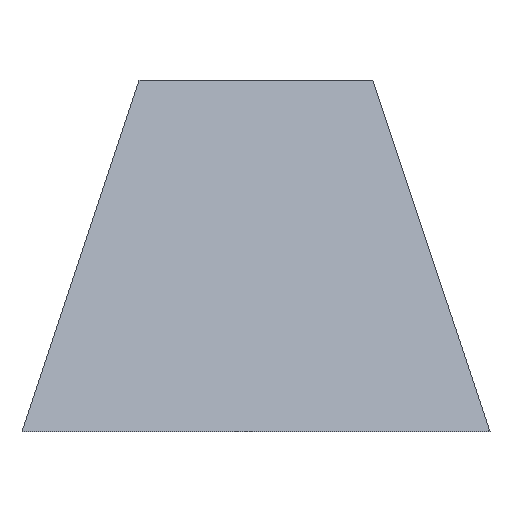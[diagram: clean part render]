
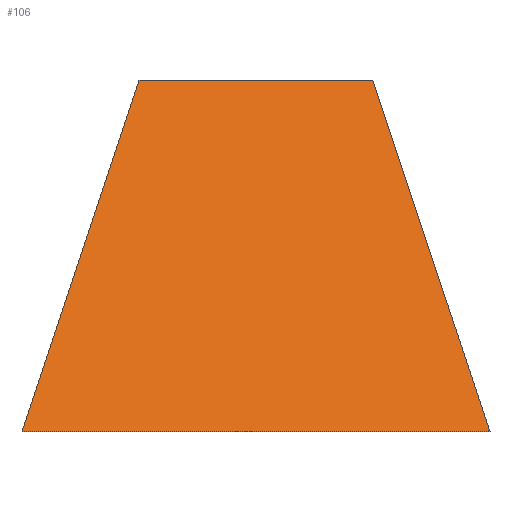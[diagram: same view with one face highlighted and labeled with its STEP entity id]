
A CAD part, front view. The second image highlights one B-rep face of the part: STEP entity #106.
In plain terms, the highlighted planar face has unit normal (0, -0.6, 0.8).
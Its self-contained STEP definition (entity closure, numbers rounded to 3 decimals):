
#46=FACE_OUTER_BOUND('',#51,.T.);
#51=EDGE_LOOP('',(#85,#86,#87,#88));
#56=LINE('',#202,#64);
#57=LINE('',#204,#65);
#58=LINE('',#206,#66);
#59=LINE('',#207,#67);
#64=VECTOR('',#156,10.);
#65=VECTOR('',#157,10.);
#66=VECTOR('',#158,10.);
#67=VECTOR('',#159,10.);
#72=VERTEX_POINT('',#200);
#73=VERTEX_POINT('',#201);
#74=VERTEX_POINT('',#203);
#75=VERTEX_POINT('',#205);
#77=EDGE_CURVE('',#72,#73,#56,.T.);
#78=EDGE_CURVE('',#74,#72,#57,.T.);
#79=EDGE_CURVE('',#75,#74,#58,.T.);
#80=EDGE_CURVE('',#73,#75,#59,.T.);
#85=ORIENTED_EDGE('',*,*,#77,.F.);
#86=ORIENTED_EDGE('',*,*,#78,.F.);
#87=ORIENTED_EDGE('',*,*,#79,.F.);
#88=ORIENTED_EDGE('',*,*,#80,.F.);
#101=PLANE('',#134);
#106=ADVANCED_FACE('',(#46),#101,.F.);
#134=AXIS2_PLACEMENT_3D('',#199,#154,#155);
#154=DIRECTION('center_axis',(0.,0.6,-0.8));
#155=DIRECTION('ref_axis',(0.,0.8,0.6));
#156=DIRECTION('',(0.196,-0.784,-0.588));
#157=DIRECTION('',(1.,0.,0.));
#158=DIRECTION('',(0.196,0.784,0.588));
#159=DIRECTION('',(-1.,0.,0.));
#199=CARTESIAN_POINT('Origin',(0.,0.,-20.));
#200=CARTESIAN_POINT('',(10.,40.,10.));
#201=CARTESIAN_POINT('',(20.,0.,-20.));
#202=CARTESIAN_POINT('',(18.462,6.154,-15.385));
#203=CARTESIAN_POINT('',(-10.,40.,10.));
#204=CARTESIAN_POINT('',(0.,40.,10.));
#205=CARTESIAN_POINT('',(-20.,0.,-20.));
#206=CARTESIAN_POINT('',(-11.923,32.308,4.231));
#207=CARTESIAN_POINT('',(20.,0.,-20.));
